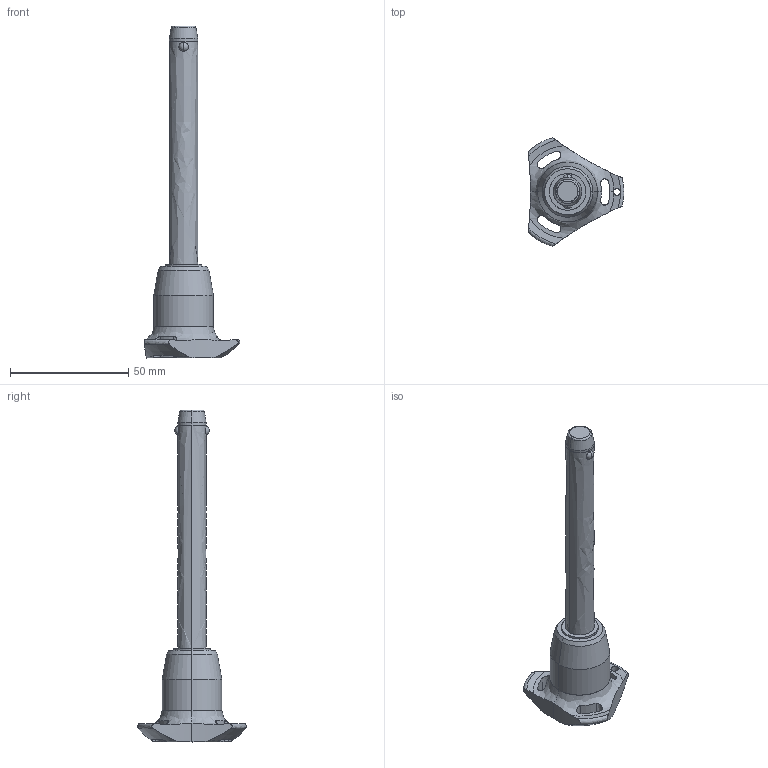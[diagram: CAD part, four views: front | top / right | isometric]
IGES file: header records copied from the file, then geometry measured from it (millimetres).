
Start section: SolidWorks IGES file using analytic representation for surfaces
Global section: file name: C:\Users\ianosborn\Desktop\QR1716_v2\QR1716_v2_20251114_IGES\QR1716.M12-090-T.igs; native system: SolidWorks 2019; preprocessor: SolidWorks 2019; author: IanOsborn; date: 251113.103743; units: millimetre
Bounding box: 40.5 x 45.88 x 140.3 mm (x, y, z)
Surface area: 9666.3 mm2 (no closed solid volume)
Topology: 0 solids, 0 shells, 68 faces, 1386 edges, 1382 vertices
Faces by surface type: revolution 52, bspline 16
